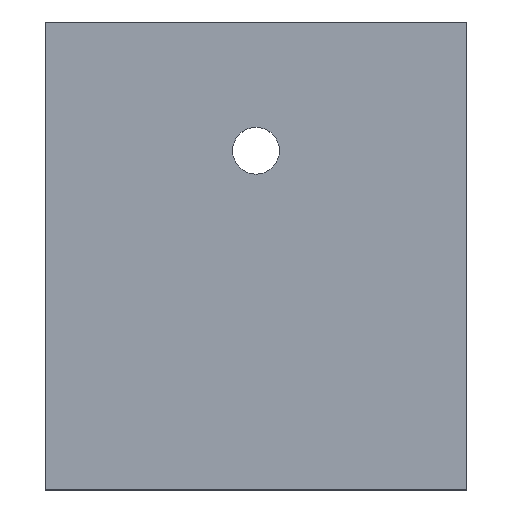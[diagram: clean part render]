
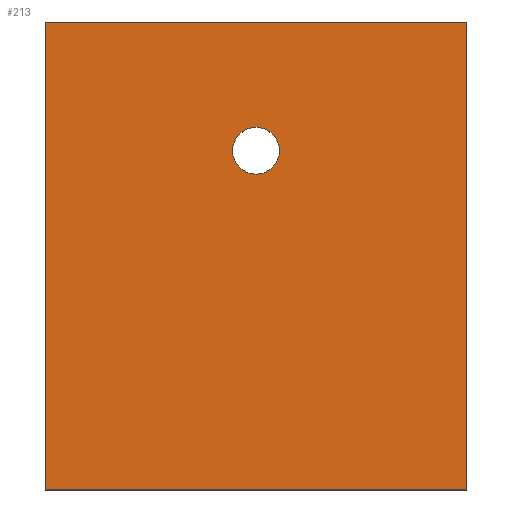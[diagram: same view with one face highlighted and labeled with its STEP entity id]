
A CAD part, top view. The second image highlights one B-rep face of the part: STEP entity #213.
In plain terms, the highlighted planar face has unit normal (0, 0, 1).
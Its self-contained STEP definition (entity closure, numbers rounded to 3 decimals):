
#24 = VERTEX_POINT('',#25);
#25 = CARTESIAN_POINT('',(-487.,0.,206.));
#32 = PLANE('',#33);
#33 = AXIS2_PLACEMENT_3D('',#34,#35,#36);
#34 = CARTESIAN_POINT('',(-487.,0.,203.));
#35 = DIRECTION('',(1.,0.,0.));
#36 = DIRECTION('',(0.,0.,1.));
#44 = PLANE('',#45);
#45 = AXIS2_PLACEMENT_3D('',#46,#47,#48);
#46 = CARTESIAN_POINT('',(-487.,0.,203.));
#47 = DIRECTION('',(0.,1.,0.));
#48 = DIRECTION('',(0.,0.,1.));
#85 = VERTEX_POINT('',#86);
#86 = CARTESIAN_POINT('',(-487.,200.,206.));
#100 = PLANE('',#101);
#101 = AXIS2_PLACEMENT_3D('',#102,#103,#104);
#102 = CARTESIAN_POINT('',(-487.,200.,203.));
#103 = DIRECTION('',(0.,1.,0.));
#104 = DIRECTION('',(0.,0.,1.));
#112 = EDGE_CURVE('',#24,#85,#113,.T.);
#113 = SURFACE_CURVE('',#114,(#118,#125),.PCURVE_S1.);
#114 = LINE('',#115,#116);
#115 = CARTESIAN_POINT('',(-487.,0.,206.));
#116 = VECTOR('',#117,1.);
#117 = DIRECTION('',(0.,1.,0.));
#118 = PCURVE('',#32,#119);
#119 = DEFINITIONAL_REPRESENTATION('',(#120),#124);
#120 = LINE('',#121,#122);
#121 = CARTESIAN_POINT('',(3.,0.));
#122 = VECTOR('',#123,1.);
#123 = DIRECTION('',(0.,-1.));
#124 = ( GEOMETRIC_REPRESENTATION_CONTEXT(2) 
PARAMETRIC_REPRESENTATION_CONTEXT() REPRESENTATION_CONTEXT('2D SPACE',''
  ) );
#125 = PCURVE('',#126,#131);
#126 = PLANE('',#127);
#127 = AXIS2_PLACEMENT_3D('',#128,#129,#130);
#128 = CARTESIAN_POINT('',(-487.,0.,206.));
#129 = DIRECTION('',(0.,0.,1.));
#130 = DIRECTION('',(1.,0.,0.));
#131 = DEFINITIONAL_REPRESENTATION('',(#132),#136);
#132 = LINE('',#133,#134);
#133 = CARTESIAN_POINT('',(0.,0.));
#134 = VECTOR('',#135,1.);
#135 = DIRECTION('',(0.,1.));
#136 = ( GEOMETRIC_REPRESENTATION_CONTEXT(2) 
PARAMETRIC_REPRESENTATION_CONTEXT() REPRESENTATION_CONTEXT('2D SPACE',''
  ) );
#165 = EDGE_CURVE('',#24,#166,#168,.T.);
#166 = VERTEX_POINT('',#167);
#167 = CARTESIAN_POINT('',(-307.,0.,206.));
#168 = SURFACE_CURVE('',#169,(#173,#180),.PCURVE_S1.);
#169 = LINE('',#170,#171);
#170 = CARTESIAN_POINT('',(-487.,0.,206.));
#171 = VECTOR('',#172,1.);
#172 = DIRECTION('',(1.,0.,0.));
#173 = PCURVE('',#44,#174);
#174 = DEFINITIONAL_REPRESENTATION('',(#175),#179);
#175 = LINE('',#176,#177);
#176 = CARTESIAN_POINT('',(3.,0.));
#177 = VECTOR('',#178,1.);
#178 = DIRECTION('',(0.,1.));
#179 = ( GEOMETRIC_REPRESENTATION_CONTEXT(2) 
PARAMETRIC_REPRESENTATION_CONTEXT() REPRESENTATION_CONTEXT('2D SPACE',''
  ) );
#180 = PCURVE('',#126,#181);
#181 = DEFINITIONAL_REPRESENTATION('',(#182),#186);
#182 = LINE('',#183,#184);
#183 = CARTESIAN_POINT('',(0.,0.));
#184 = VECTOR('',#185,1.);
#185 = DIRECTION('',(1.,0.));
#186 = ( GEOMETRIC_REPRESENTATION_CONTEXT(2) 
PARAMETRIC_REPRESENTATION_CONTEXT() REPRESENTATION_CONTEXT('2D SPACE',''
  ) );
#202 = PLANE('',#203);
#203 = AXIS2_PLACEMENT_3D('',#204,#205,#206);
#204 = CARTESIAN_POINT('',(-307.,0.,203.));
#205 = DIRECTION('',(1.,0.,0.));
#206 = DIRECTION('',(0.,0.,1.));
#213 = ADVANCED_FACE('',(#214,#262),#126,.T.);
#214 = FACE_BOUND('',#215,.T.);
#215 = EDGE_LOOP('',(#216,#217,#218,#241));
#216 = ORIENTED_EDGE('',*,*,#112,.F.);
#217 = ORIENTED_EDGE('',*,*,#165,.T.);
#218 = ORIENTED_EDGE('',*,*,#219,.T.);
#219 = EDGE_CURVE('',#166,#220,#222,.T.);
#220 = VERTEX_POINT('',#221);
#221 = CARTESIAN_POINT('',(-307.,200.,206.));
#222 = SURFACE_CURVE('',#223,(#227,#234),.PCURVE_S1.);
#223 = LINE('',#224,#225);
#224 = CARTESIAN_POINT('',(-307.,0.,206.));
#225 = VECTOR('',#226,1.);
#226 = DIRECTION('',(0.,1.,0.));
#227 = PCURVE('',#126,#228);
#228 = DEFINITIONAL_REPRESENTATION('',(#229),#233);
#229 = LINE('',#230,#231);
#230 = CARTESIAN_POINT('',(180.,0.));
#231 = VECTOR('',#232,1.);
#232 = DIRECTION('',(0.,1.));
#233 = ( GEOMETRIC_REPRESENTATION_CONTEXT(2) 
PARAMETRIC_REPRESENTATION_CONTEXT() REPRESENTATION_CONTEXT('2D SPACE',''
  ) );
#234 = PCURVE('',#202,#235);
#235 = DEFINITIONAL_REPRESENTATION('',(#236),#240);
#236 = LINE('',#237,#238);
#237 = CARTESIAN_POINT('',(3.,0.));
#238 = VECTOR('',#239,1.);
#239 = DIRECTION('',(0.,-1.));
#240 = ( GEOMETRIC_REPRESENTATION_CONTEXT(2) 
PARAMETRIC_REPRESENTATION_CONTEXT() REPRESENTATION_CONTEXT('2D SPACE',''
  ) );
#241 = ORIENTED_EDGE('',*,*,#242,.F.);
#242 = EDGE_CURVE('',#85,#220,#243,.T.);
#243 = SURFACE_CURVE('',#244,(#248,#255),.PCURVE_S1.);
#244 = LINE('',#245,#246);
#245 = CARTESIAN_POINT('',(-487.,200.,206.));
#246 = VECTOR('',#247,1.);
#247 = DIRECTION('',(1.,0.,0.));
#248 = PCURVE('',#126,#249);
#249 = DEFINITIONAL_REPRESENTATION('',(#250),#254);
#250 = LINE('',#251,#252);
#251 = CARTESIAN_POINT('',(0.,200.));
#252 = VECTOR('',#253,1.);
#253 = DIRECTION('',(1.,0.));
#254 = ( GEOMETRIC_REPRESENTATION_CONTEXT(2) 
PARAMETRIC_REPRESENTATION_CONTEXT() REPRESENTATION_CONTEXT('2D SPACE',''
  ) );
#255 = PCURVE('',#100,#256);
#256 = DEFINITIONAL_REPRESENTATION('',(#257),#261);
#257 = LINE('',#258,#259);
#258 = CARTESIAN_POINT('',(3.,0.));
#259 = VECTOR('',#260,1.);
#260 = DIRECTION('',(0.,1.));
#261 = ( GEOMETRIC_REPRESENTATION_CONTEXT(2) 
PARAMETRIC_REPRESENTATION_CONTEXT() REPRESENTATION_CONTEXT('2D SPACE',''
  ) );
#262 = FACE_BOUND('',#263,.T.);
#263 = EDGE_LOOP('',(#264));
#264 = ORIENTED_EDGE('',*,*,#265,.T.);
#265 = EDGE_CURVE('',#266,#266,#268,.T.);
#266 = VERTEX_POINT('',#267);
#267 = CARTESIAN_POINT('',(-387.,145.,206.));
#268 = SURFACE_CURVE('',#269,(#274,#285),.PCURVE_S1.);
#269 = CIRCLE('',#270,10.);
#270 = AXIS2_PLACEMENT_3D('',#271,#272,#273);
#271 = CARTESIAN_POINT('',(-397.,145.,206.));
#272 = DIRECTION('',(0.,0.,-1.));
#273 = DIRECTION('',(1.,0.,0.));
#274 = PCURVE('',#126,#275);
#275 = DEFINITIONAL_REPRESENTATION('',(#276),#284);
#276 = ( BOUNDED_CURVE() B_SPLINE_CURVE(2,(#277,#278,#279,#280,#281,#282
,#283),.UNSPECIFIED.,.T.,.F.) B_SPLINE_CURVE_WITH_KNOTS((1,2,2,2,2,1),(
    -2.094,0.,2.094,4.189,6.283,
8.378),.UNSPECIFIED.) CURVE() GEOMETRIC_REPRESENTATION_ITEM() 
RATIONAL_B_SPLINE_CURVE((1.,0.5,1.,0.5,1.,0.5,1.)) REPRESENTATION_ITEM(
  '') );
#277 = CARTESIAN_POINT('',(100.,145.));
#278 = CARTESIAN_POINT('',(100.,127.679));
#279 = CARTESIAN_POINT('',(85.,136.34));
#280 = CARTESIAN_POINT('',(70.,145.));
#281 = CARTESIAN_POINT('',(85.,153.66));
#282 = CARTESIAN_POINT('',(100.,162.321));
#283 = CARTESIAN_POINT('',(100.,145.));
#284 = ( GEOMETRIC_REPRESENTATION_CONTEXT(2) 
PARAMETRIC_REPRESENTATION_CONTEXT() REPRESENTATION_CONTEXT('2D SPACE',''
  ) );
#285 = PCURVE('',#286,#291);
#286 = CYLINDRICAL_SURFACE('',#287,10.);
#287 = AXIS2_PLACEMENT_3D('',#288,#289,#290);
#288 = CARTESIAN_POINT('',(-397.,145.,202.));
#289 = DIRECTION('',(-0.,-0.,-1.));
#290 = DIRECTION('',(1.,0.,0.));
#291 = DEFINITIONAL_REPRESENTATION('',(#292),#296);
#292 = LINE('',#293,#294);
#293 = CARTESIAN_POINT('',(-6.283,-4.));
#294 = VECTOR('',#295,1.);
#295 = DIRECTION('',(1.,-0.));
#296 = ( GEOMETRIC_REPRESENTATION_CONTEXT(2) 
PARAMETRIC_REPRESENTATION_CONTEXT() REPRESENTATION_CONTEXT('2D SPACE',''
  ) );
